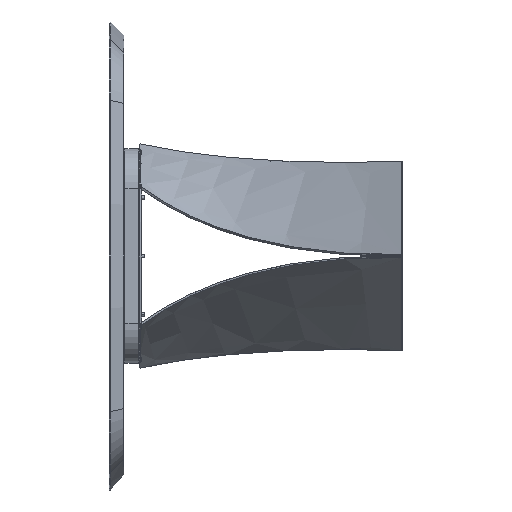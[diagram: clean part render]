
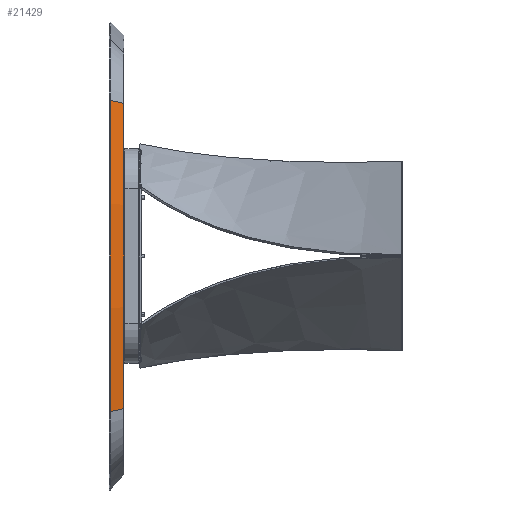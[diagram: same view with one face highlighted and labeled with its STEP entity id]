
A CAD part, left-side view. The second image highlights one B-rep face of the part: STEP entity #21429.
In plain terms, the highlighted conical face has half-angle 45 degrees and reference radius 1895 mm.
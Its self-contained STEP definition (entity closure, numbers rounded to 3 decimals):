
#62 = CARTESIAN_POINT ( 'NONE',  ( -923.312, 0., -391.588 ) ) ;
#120 = CIRCLE ( 'NONE', #22061, 1860.293 ) ;
#202 = DIRECTION ( 'NONE',  ( -0.691, 0.707, 0.149 ) ) ;
#684 = AXIS2_PLACEMENT_3D ( 'NONE', #21551, #3854, #2335 ) ;
#1887 = CIRCLE ( 'NONE', #684, 1895. ) ;
#2032 = CARTESIAN_POINT ( 'NONE',  ( -923.598, 0.293, 391.65 ) ) ;
#2083 = DIRECTION ( 'NONE',  ( -0.691, 0.707, -0.149 ) ) ;
#2335 = DIRECTION ( 'NONE',  ( 0., 0., 1. ) ) ;
#2972 = ORIENTED_EDGE ( 'NONE', *, *, #21030, .T. ) ;
#3854 = DIRECTION ( 'NONE',  ( 0., 1., 0. ) ) ;
#3873 = VERTEX_POINT ( 'NONE', #15163 ) ;
#4112 = LINE ( 'NONE', #62, #8376 ) ;
#5094 = VERTEX_POINT ( 'NONE', #6055 ) ;
#5133 = CARTESIAN_POINT ( 'NONE',  ( 895., 35., 0. ) ) ;
#6055 = CARTESIAN_POINT ( 'NONE',  ( -957.528, 35., 398.956 ) ) ;
#6181 = CONICAL_SURFACE ( 'NONE', #18375, 1895., 0.785 ) ;
#8376 = VECTOR ( 'NONE', #2083, 1000. ) ;
#9118 = EDGE_CURVE ( 'NONE', #3873, #18831, #120, .T. ) ;
#9198 = DIRECTION ( 'NONE',  ( 0., 0., 1. ) ) ;
#9479 = CARTESIAN_POINT ( 'NONE',  ( -923.312, 0., 391.588 ) ) ;
#9510 = DIRECTION ( 'NONE',  ( 0., 1., 0. ) ) ;
#9770 = CARTESIAN_POINT ( 'NONE',  ( 895., 0.293, 0. ) ) ;
#11978 = VERTEX_POINT ( 'NONE', #23453 ) ;
#13056 = LINE ( 'NONE', #9479, #20011 ) ;
#14691 = ORIENTED_EDGE ( 'NONE', *, *, #9118, .T. ) ;
#15163 = CARTESIAN_POINT ( 'NONE',  ( -923.598, 0.293, -391.65 ) ) ;
#15353 = DIRECTION ( 'NONE',  ( 0., 0., 1. ) ) ;
#16057 = EDGE_LOOP ( 'NONE', ( #24811, #14691, #2972, #20276 ) ) ;
#16462 = FACE_OUTER_BOUND ( 'NONE', #16057, .T. ) ;
#16839 = DIRECTION ( 'NONE',  ( 0., 1., 0. ) ) ;
#17755 = EDGE_CURVE ( 'NONE', #3873, #11978, #4112, .T. ) ;
#17813 = EDGE_CURVE ( 'NONE', #11978, #5094, #1887, .T. ) ;
#18375 = AXIS2_PLACEMENT_3D ( 'NONE', #5133, #16839, #9198 ) ;
#18831 = VERTEX_POINT ( 'NONE', #2032 ) ;
#20011 = VECTOR ( 'NONE', #202, 1000. ) ;
#20276 = ORIENTED_EDGE ( 'NONE', *, *, #17813, .F. ) ;
#21030 = EDGE_CURVE ( 'NONE', #18831, #5094, #13056, .T. ) ;
#21429 = ADVANCED_FACE ( 'NONE', ( #16462 ), #6181, .T. ) ;
#21551 = CARTESIAN_POINT ( 'NONE',  ( 895., 35., 0. ) ) ;
#22061 = AXIS2_PLACEMENT_3D ( 'NONE', #9770, #9510, #15353 ) ;
#23453 = CARTESIAN_POINT ( 'NONE',  ( -957.528, 35., -398.956 ) ) ;
#24811 = ORIENTED_EDGE ( 'NONE', *, *, #17755, .F. ) ;
